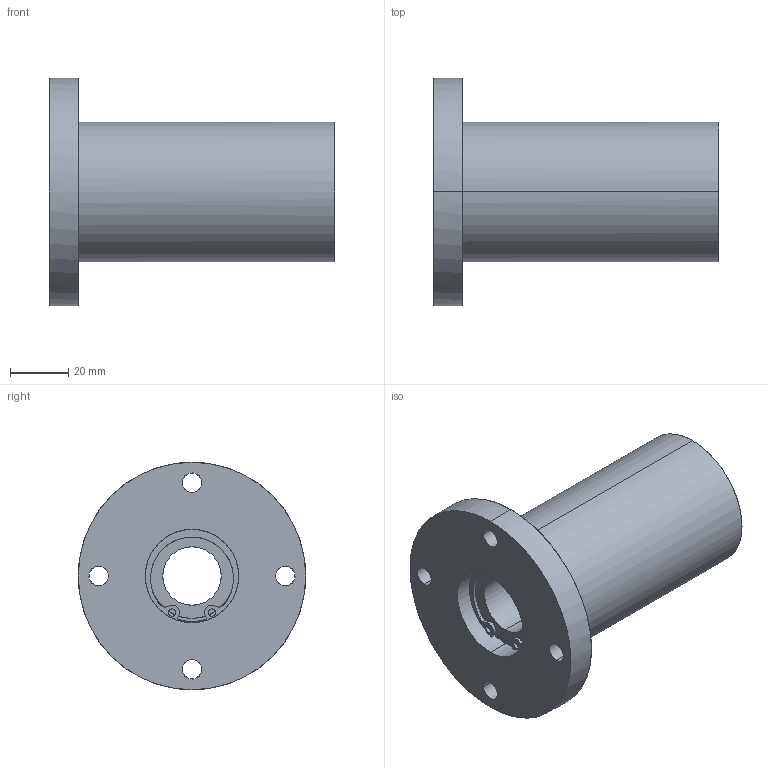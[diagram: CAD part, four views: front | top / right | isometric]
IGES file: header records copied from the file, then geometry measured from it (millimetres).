
Global section: file name: No Iges File Name specified; native system: AutoDesk Inventor R10; preprocessor: AutoDesk Inventor Iges Exporter R10; author: No Author specified; organization: No Organization specified; date: 20101214.134720; units: millimetre
Bounding box: 98 x 78 x 78 mm (x, y, z)
Surface area: 35593.4 mm2 (no closed solid volume)
Topology: 0 solids, 0 shells, 111 faces, 816 edges, 816 vertices
Faces by surface type: bspline 111
